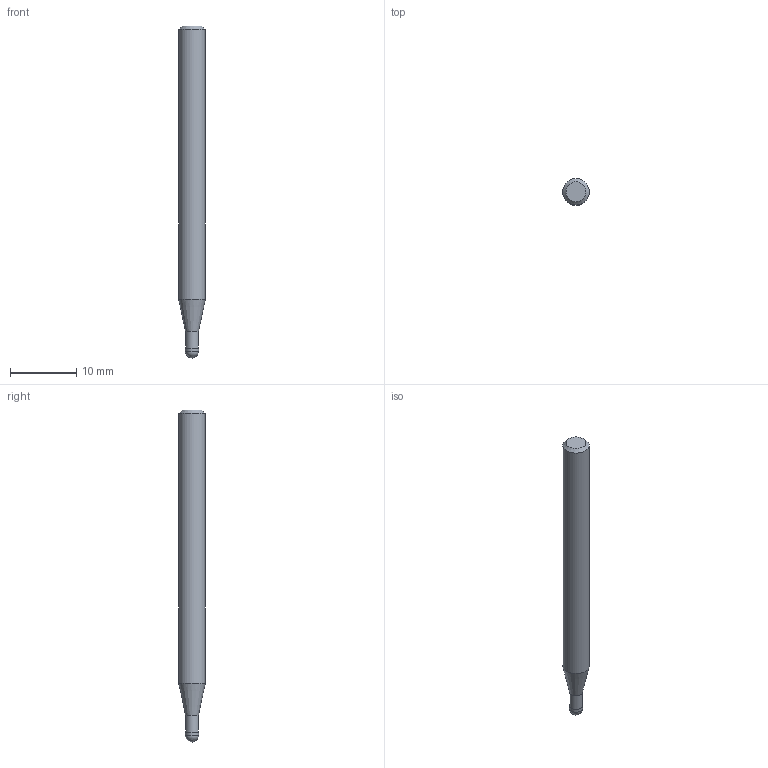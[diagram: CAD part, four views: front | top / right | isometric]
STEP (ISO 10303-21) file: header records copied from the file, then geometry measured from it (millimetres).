
FILE_DESCRIPTION((''),'2;1');
FILE_NAME('C:\Users\nsx150\AppData\Local\Temp\Mastercam 2021\ZXBT0ST9RL\TEMP.step','2021-06-25T11:03:07',(''),(''),'STEP Write','Mastercam 2021 ... CNC Software, Inc.','');
FILE_SCHEMA(('AUTOMOTIVE_DESIGN'));
Length unit declared in the file: millimetre
Products named in the file (1): None
Bounding box: 4 x 4 x 50 mm (x, y, z)
Volume: 561.7 mm3; surface area: 602.7 mm2
Topology: 2 solids, 2 shells, 9 faces, 14 edges, 8 vertices
Faces by surface type: plane 3, cylinder 3, cone 2, sphere 1
Full cylindrical faces by diameter (mm): 1.94 x1, 2 x1, 4 x1
Entity records: 211 total; most frequent: DIRECTION 36, CARTESIAN_POINT 25, AXIS2_PLACEMENT_3D 18, ORIENTED_EDGE 14, EDGE_LOOP 14, STYLED_ITEM 12, ADVANCED_FACE 9, FACE_BOUND 8
